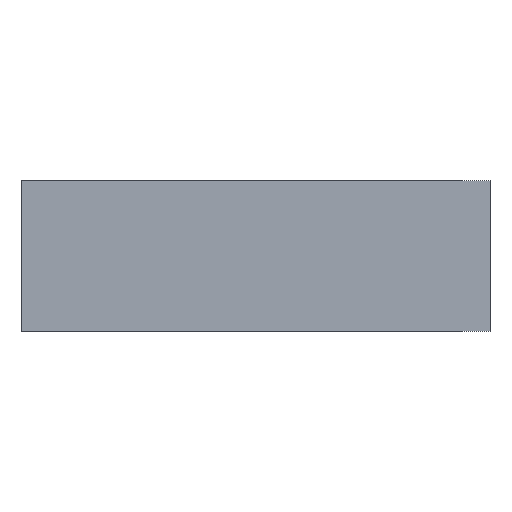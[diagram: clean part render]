
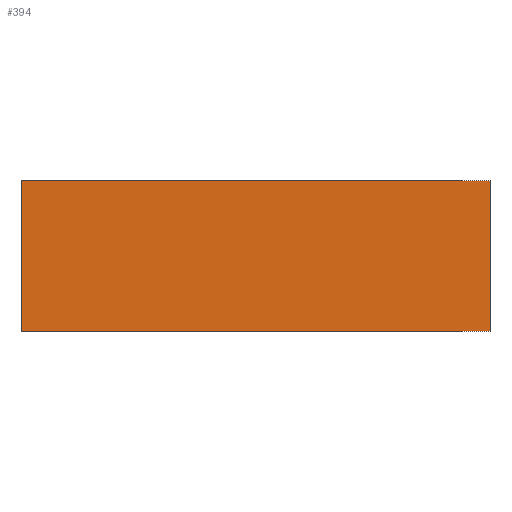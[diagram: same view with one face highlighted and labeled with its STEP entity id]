
A CAD part, front view. The second image highlights one B-rep face of the part: STEP entity #394.
In plain terms, the highlighted planar face has unit normal (0, -1, 0).
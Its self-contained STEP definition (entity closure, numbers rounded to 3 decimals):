
#5 = EDGE_CURVE ( 'NONE', #660, #695, #120, .T. ) ;
#28 = EDGE_CURVE ( 'NONE', #675, #624, #234, .T. ) ;
#47 = AXIS2_PLACEMENT_3D ( 'NONE', #532, #521, #519 ) ;
#52 = EDGE_CURVE ( 'NONE', #695, #624, #216, .T. ) ;
#59 = EDGE_CURVE ( 'NONE', #660, #675, #185, .T. ) ;
#120 = LINE ( 'NONE', #565, #253 ) ;
#142 = FACE_OUTER_BOUND ( 'NONE', #268, .T. ) ;
#184 = VECTOR ( 'NONE', #628, 1000. ) ;
#185 = LINE ( 'NONE', #629, #184 ) ;
#197 = VECTOR ( 'NONE', #646, 1000. ) ;
#216 = LINE ( 'NONE', #657, #197 ) ;
#219 = VECTOR ( 'NONE', #679, 1000. ) ;
#234 = LINE ( 'NONE', #696, #219 ) ;
#253 = VECTOR ( 'NONE', #550, 1000. ) ;
#268 = EDGE_LOOP ( 'NONE', ( #313, #314, #315, #316 ) ) ;
#313 = ORIENTED_EDGE ( 'NONE', *, *, #28, .T. ) ;
#314 = ORIENTED_EDGE ( 'NONE', *, *, #52, .F. ) ;
#315 = ORIENTED_EDGE ( 'NONE', *, *, #5, .F. ) ;
#316 = ORIENTED_EDGE ( 'NONE', *, *, #59, .T. ) ;
#394 = ADVANCED_FACE ( 'NONE', ( #142 ), #533, .F. ) ;
#446 = CARTESIAN_POINT ( 'NONE',  ( 101., 0., 65. ) ) ;
#453 = CARTESIAN_POINT ( 'NONE',  ( -101., 0., 0. ) ) ;
#458 = CARTESIAN_POINT ( 'NONE',  ( -101., 0., 65. ) ) ;
#470 = CARTESIAN_POINT ( 'NONE',  ( 101., 0., 0. ) ) ;
#519 = DIRECTION ( 'NONE',  ( -1., 0., 0. ) ) ;
#521 = DIRECTION ( 'NONE',  ( 0., 1., 0. ) ) ;
#532 = CARTESIAN_POINT ( 'NONE',  ( -101., 0., 65. ) ) ;
#533 = PLANE ( 'NONE',  #47 ) ;
#550 = DIRECTION ( 'NONE',  ( 1., 0., 0. ) ) ;
#565 = CARTESIAN_POINT ( 'NONE',  ( -101., 0., 65. ) ) ;
#624 = VERTEX_POINT ( 'NONE', #470 ) ;
#628 = DIRECTION ( 'NONE',  ( 0., 0., -1. ) ) ;
#629 = CARTESIAN_POINT ( 'NONE',  ( -101., 0., 65. ) ) ;
#646 = DIRECTION ( 'NONE',  ( 0., 0., -1. ) ) ;
#657 = CARTESIAN_POINT ( 'NONE',  ( 101., 0., 65. ) ) ;
#660 = VERTEX_POINT ( 'NONE', #458 ) ;
#675 = VERTEX_POINT ( 'NONE', #453 ) ;
#679 = DIRECTION ( 'NONE',  ( 1., 0., 0. ) ) ;
#695 = VERTEX_POINT ( 'NONE', #446 ) ;
#696 = CARTESIAN_POINT ( 'NONE',  ( -101., 0., 0. ) ) ;
